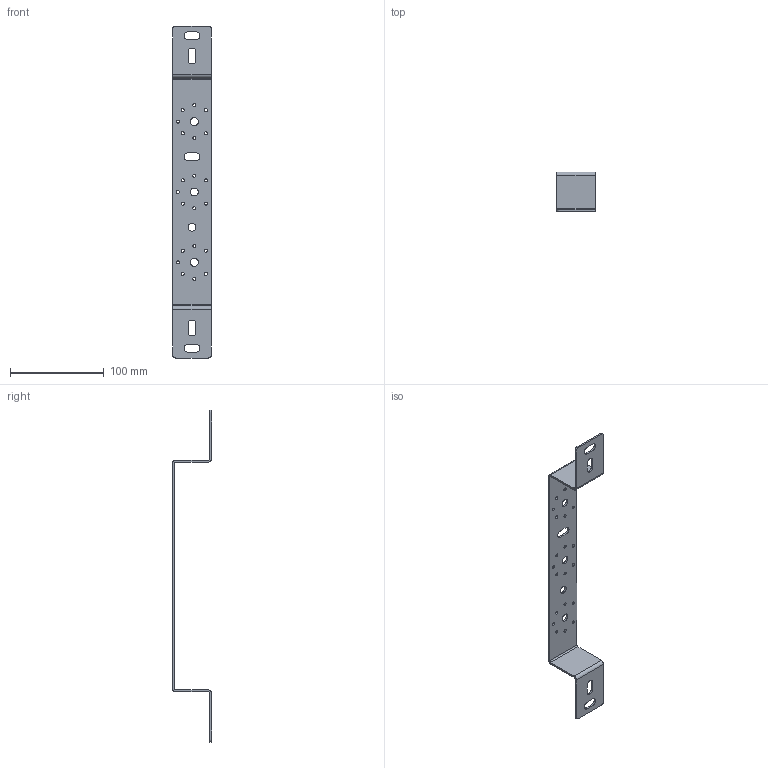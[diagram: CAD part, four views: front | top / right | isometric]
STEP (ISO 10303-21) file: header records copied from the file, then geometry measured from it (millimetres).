
FILE_DESCRIPTION(('STEP AP203'), '1');
FILE_NAME('覆.745422.002 - VT.PML 砑. 斁艜馰', '', ('UNSPECIFIED'), ('UNSPECIFIED'), 'C3D Converter', 'C3D Toolkit', '');
FILE_SCHEMA(('CONFIG_CONTROL_DESIGN'));
Length unit declared in the file: millimetre
Products named in the file (1): ВР.745422.002-01
Bounding box: 41 x 42 x 354 mm (x, y, z)
Volume: 33129.9 mm3; surface area: 36080.9 mm2
Topology: 1 solids, 1 shells, 87 faces, 328 edges, 264 vertices
Faces by surface type: cylinder 47, plane 40
Full cylindrical faces by diameter (mm): 3.242 x21, 8.5 x4
Entity records: 6495 total; most frequent: CARTESIAN_POINT 3364, DIRECTION 636, ORIENTED_EDGE 396, AXIS2_PLACEMENT_3D 266, EDGE_CURVE 198, CIRCLE 178, EDGE_LOOP 172, VERTEX_POINT 138
